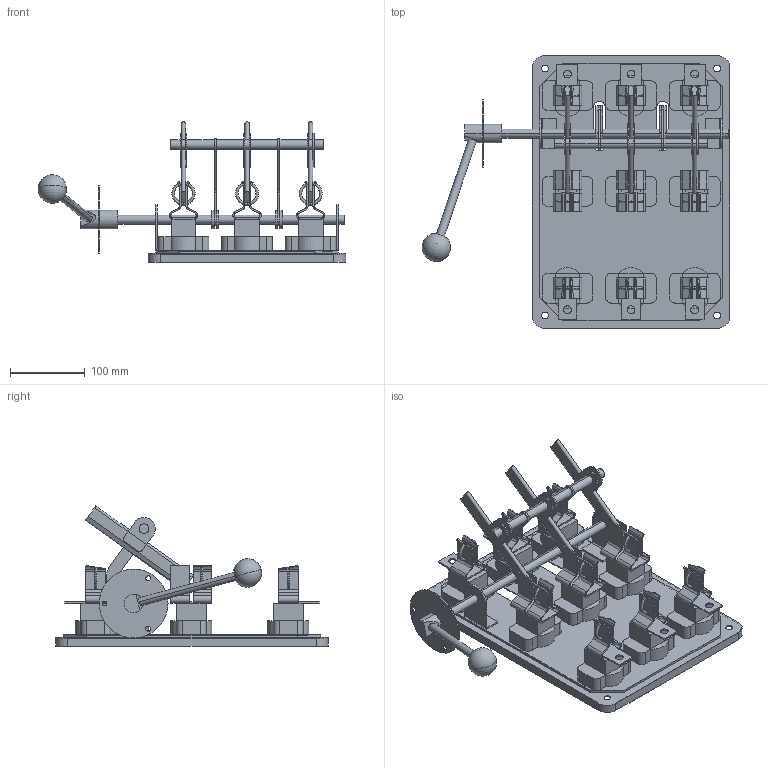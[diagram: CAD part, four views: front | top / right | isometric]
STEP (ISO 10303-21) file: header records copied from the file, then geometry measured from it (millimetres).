
FILE_DESCRIPTION (( 'STEP AP214' ), '1' );
FILE_NAME ('Ðàçúåäèíèòåëü ÐÏÁ-2Ë-250À-áåçÏÂ-Ó3-ÊÝÀÇ.STEP', '2023-05-01T20:03:01', ( '' ), ( '' ), 'SwSTEP 2.0', 'SolidWorks 2018', '' );
FILE_SCHEMA (( 'AUTOMOTIVE_DESIGN' ));
Length unit declared in the file: millimetre
Products named in the file (1): Ðàçúåäèíèòåëü ÐÏÁ-2Ë-250À-áåçÏÂ-Ó3-ÊÝÀÇ
Bounding box: 411.16 x 364 x 187.58 mm (x, y, z)
Volume: 1456488.3 mm3; surface area: 523895.3 mm2
Topology: 9 solids, 9 shells, 990 faces, 2748 edges, 1792 vertices
Faces by surface type: plane 560, cylinder 356, torus 72, sphere 2
Entity records: 44864 total; most frequent: CARTESIAN_POINT 7824, ORIENTED_EDGE 5486, DIRECTION 5453, EDGE_CURVE 2743, AXIS2_PLACEMENT_3D 1858, VERTEX_POINT 1789, VECTOR 1737, LINE 1737
